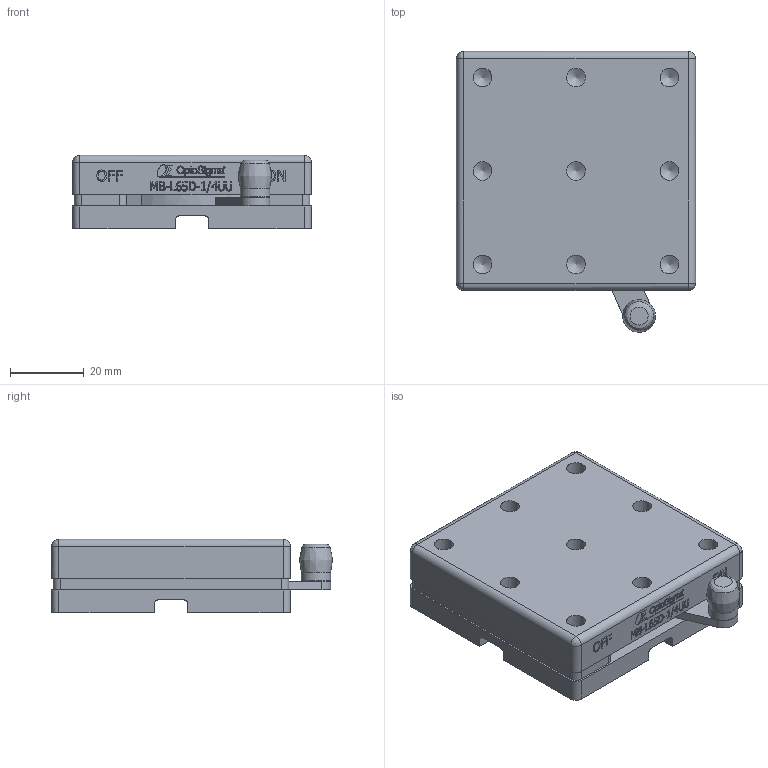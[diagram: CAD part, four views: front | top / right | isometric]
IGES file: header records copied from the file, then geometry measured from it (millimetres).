
Global section: file name: MB-L65D-1_4UU; native system: Autodesk Inventor 2023; preprocessor: unknown; author: ma.tanaka; date: 20240528.094832; units: millimetre
Bounding box: 65 x 76.43 x 20 mm (x, y, z)
Volume: 75142.6 mm3; surface area: 16906 mm2
Topology: 1 solids, 1 shells, 473 faces, 1307 edges, 887 vertices
Faces by surface type: bspline 473
